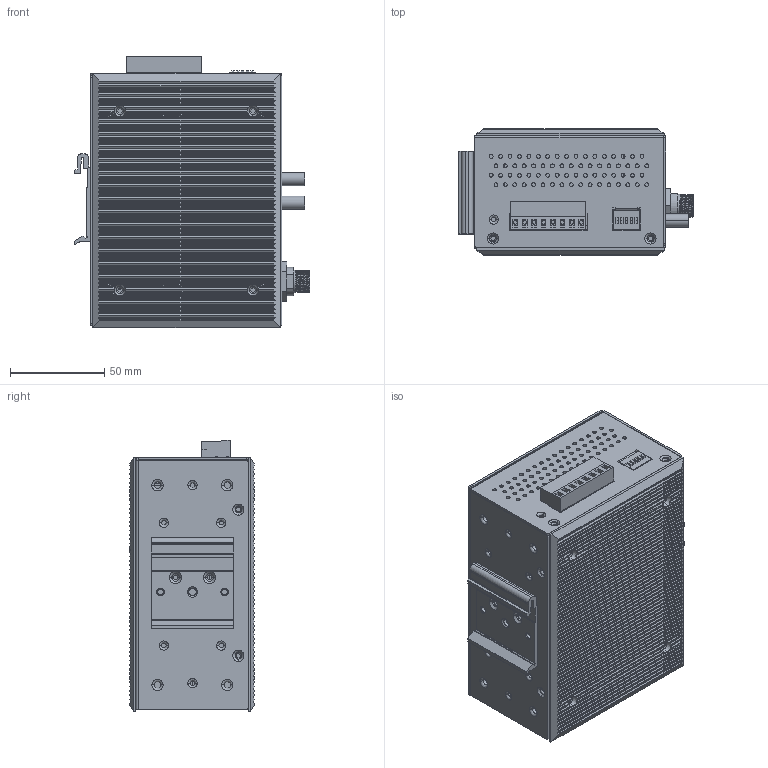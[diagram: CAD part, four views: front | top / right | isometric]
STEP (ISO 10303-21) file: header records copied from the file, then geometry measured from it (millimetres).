
FILE_DESCRIPTION((''),'2;1');
FILE_NAME('PTC-101-M12-ST_3D','2013-12-29T',('Vincent_Huang'),(''),'PRO/ENGINEER BY PARAMETRIC TECHNOLOGY CORPORATION, 2004320','PRO/ENGINEER BY PARAMETRIC TECHNOLOGY CORPORATION, 2004320','');
FILE_SCHEMA(('CONFIG_CONTROL_DESIGN'));
Products named in the file (1): PTC-101-M12-ST_3D
Bounding box: 125 x 66.74 x 144.15 mm (x, y, z)
Surface area: 270553.9 mm2 (no closed solid volume)
Topology: 0 solids, 38 shells, 2740 faces, 7204 edges, 4689 vertices
Faces by surface type: plane 1395, cylinder 1199, torus 90, cone 41, bspline 15
Entity records: 87535 total; most frequent: CARTESIAN_POINT 18460, ORIENTED_EDGE 14408, DIRECTION 14127, EDGE_CURVE 7204, AXIS2_PLACEMENT_3D 4937, VERTEX_POINT 4689, VECTOR 4253, LINE 4253
